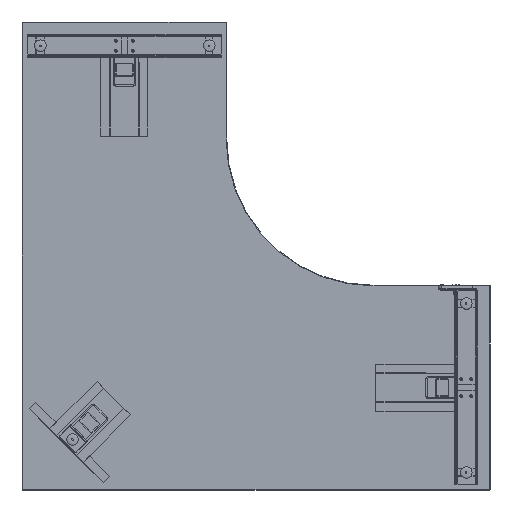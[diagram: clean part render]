
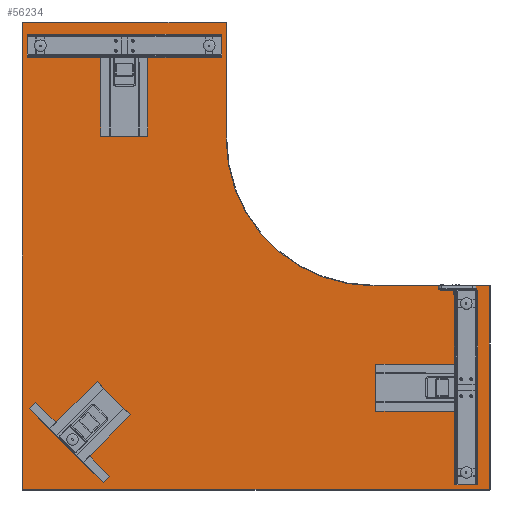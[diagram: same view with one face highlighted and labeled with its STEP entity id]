
A CAD part, front view. The second image highlights one B-rep face of the part: STEP entity #56234.
In plain terms, the highlighted planar face has unit normal (0, -1, 0).
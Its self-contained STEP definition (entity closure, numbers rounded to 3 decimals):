
#5312=CIRCLE('',#62124,502.);
#8484=FACE_OUTER_BOUND('',#11833,.T.);
#11833=EDGE_LOOP('',(#51434,#51435,#51436,#51437,#51438,#51439,#51440));
#16685=LINE('',#116588,#21558);
#16687=LINE('',#116597,#21560);
#16695=LINE('',#116630,#21568);
#16699=LINE('',#116643,#21572);
#16701=LINE('',#116646,#21574);
#16705=LINE('',#116652,#21578);
#21558=VECTOR('',#78432,10.);
#21560=VECTOR('',#78444,10.);
#21568=VECTOR('',#78484,10.);
#21572=VECTOR('',#78500,10.);
#21574=VECTOR('',#78504,10.);
#21578=VECTOR('',#78512,10.);
#26785=VERTEX_POINT('',#116549);
#26794=VERTEX_POINT('',#116576);
#26797=VERTEX_POINT('',#116586);
#26799=VERTEX_POINT('',#116592);
#26801=VERTEX_POINT('',#116601);
#26807=VERTEX_POINT('',#116621);
#26810=VERTEX_POINT('',#116634);
#34986=EDGE_CURVE('',#26797,#26794,#16685,.T.);
#34989=EDGE_CURVE('',#26799,#26797,#5312,.T.);
#34991=EDGE_CURVE('',#26785,#26799,#16687,.T.);
#35008=EDGE_CURVE('',#26794,#26807,#16695,.T.);
#35015=EDGE_CURVE('',#26807,#26810,#16699,.T.);
#35017=EDGE_CURVE('',#26810,#26801,#16701,.T.);
#35021=EDGE_CURVE('',#26801,#26785,#16705,.T.);
#51434=ORIENTED_EDGE('',*,*,#34986,.F.);
#51435=ORIENTED_EDGE('',*,*,#34989,.F.);
#51436=ORIENTED_EDGE('',*,*,#34991,.F.);
#51437=ORIENTED_EDGE('',*,*,#35021,.F.);
#51438=ORIENTED_EDGE('',*,*,#35017,.F.);
#51439=ORIENTED_EDGE('',*,*,#35015,.F.);
#51440=ORIENTED_EDGE('',*,*,#35008,.F.);
#53071=PLANE('',#62157);
#56234=ADVANCED_FACE('',(#8484),#53071,.F.);
#62124=AXIS2_PLACEMENT_3D('',#116594,#78438,#78439);
#62157=AXIS2_PLACEMENT_3D('',#116663,#78528,#78529);
#78432=DIRECTION('',(1.,0.,0.));
#78438=DIRECTION('center_axis',(0.,-1.,0.));
#78439=DIRECTION('ref_axis',(-0.707,0.,-0.707));
#78444=DIRECTION('',(0.,0.,-1.));
#78484=DIRECTION('',(0.,0.,-1.));
#78500=DIRECTION('',(-1.,0.,0.));
#78504=DIRECTION('',(0.,0.,1.));
#78512=DIRECTION('',(1.,0.,0.));
#78528=DIRECTION('center_axis',(0.,1.,0.));
#78529=DIRECTION('ref_axis',(1.,0.,0.));
#116549=CARTESIAN_POINT('',(698.,1025.,-2.));
#116576=CARTESIAN_POINT('',(1598.,1025.,-902.));
#116586=CARTESIAN_POINT('',(1200.,1025.,-902.));
#116588=CARTESIAN_POINT('',(1200.,1025.,-902.));
#116592=CARTESIAN_POINT('',(698.,1025.,-400.));
#116594=CARTESIAN_POINT('Origin',(1200.,1025.,-400.));
#116597=CARTESIAN_POINT('',(698.,1025.,-600.));
#116601=CARTESIAN_POINT('',(2.,1025.,-2.));
#116621=CARTESIAN_POINT('',(1598.,1025.,-1598.));
#116630=CARTESIAN_POINT('',(1598.,1025.,-1200.));
#116634=CARTESIAN_POINT('',(2.,1025.,-1598.));
#116643=CARTESIAN_POINT('',(400.,1025.,-1598.));
#116646=CARTESIAN_POINT('',(2.,1025.,-400.));
#116652=CARTESIAN_POINT('',(750.,1025.,-2.));
#116663=CARTESIAN_POINT('Origin',(800.,1025.,-800.));
